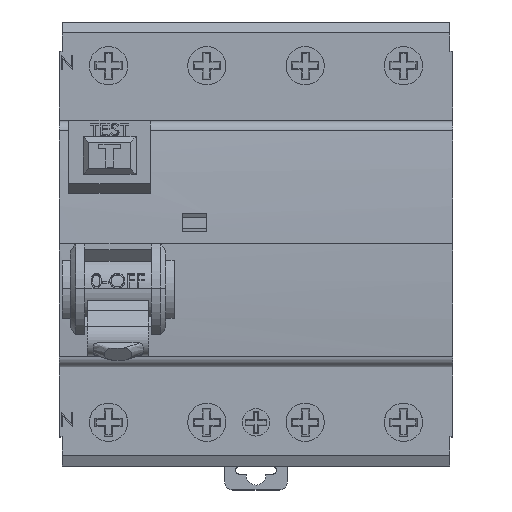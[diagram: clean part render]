
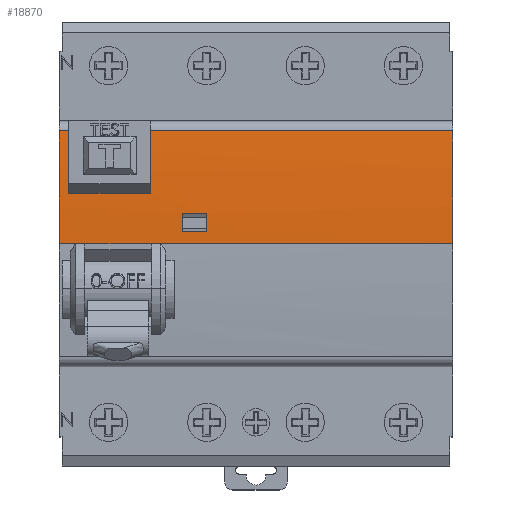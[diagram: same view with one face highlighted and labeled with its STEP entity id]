
A CAD part, top view. The second image highlights one B-rep face of the part: STEP entity #18870.
In plain terms, the highlighted cylindrical face has radius 211.537 mm (diameter 423.075 mm), a partial arc.
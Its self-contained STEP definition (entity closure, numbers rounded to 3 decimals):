
#9 = CIRCLE ( 'NONE', #1213, 211.538 ) ;
#131 = CIRCLE ( 'NONE', #594, 211.538 ) ;
#140 = CIRCLE ( 'NONE', #622, 211.538 ) ;
#167 = CIRCLE ( 'NONE', #575, 211.538 ) ;
#173 = CIRCLE ( 'NONE', #572, 211.538 ) ;
#220 = CIRCLE ( 'NONE', #3676, 211.538 ) ;
#571 = VECTOR ( 'NONE', #10637, 1000. ) ;
#572 = AXIS2_PLACEMENT_3D ( 'NONE', #10631, #10639, #10641 ) ;
#575 = AXIS2_PLACEMENT_3D ( 'NONE', #10613, #10627, #10629 ) ;
#576 = VECTOR ( 'NONE', #10619, 1000. ) ;
#578 = VECTOR ( 'NONE', #10611, 1000. ) ;
#581 = VECTOR ( 'NONE', #10591, 1000. ) ;
#583 = VECTOR ( 'NONE', #10585, 1000. ) ;
#592 = VECTOR ( 'NONE', #10531, 1000. ) ;
#593 = VECTOR ( 'NONE', #10519, 1000. ) ;
#594 = AXIS2_PLACEMENT_3D ( 'NONE', #10483, #10521, #10523 ) ;
#622 = AXIS2_PLACEMENT_3D ( 'NONE', #10525, #10533, #10535 ) ;
#807 = VECTOR ( 'NONE', #9980, 1000. ) ;
#1213 = AXIS2_PLACEMENT_3D ( 'NONE', #2633, #2634, #2635 ) ;
#1433 = VECTOR ( 'NONE', #1824, 1000. ) ;
#1490 = VECTOR ( 'NONE', #1732, 1000. ) ;
#1728 = LINE ( 'NONE', #1730, #1490 ) ;
#1730 = CARTESIAN_POINT ( 'NONE',  ( 80.257, 0., 33. ) ) ;
#1732 = DIRECTION ( 'NONE',  ( -1., 0., 0. ) ) ;
#1820 = LINE ( 'NONE', #1822, #1433 ) ;
#1822 = CARTESIAN_POINT ( 'NONE',  ( 80.257, 0., 33. ) ) ;
#1824 = DIRECTION ( 'NONE',  ( -1., 0., 0. ) ) ;
#2633 = CARTESIAN_POINT ( 'NONE',  ( -36., 0., -178.538 ) ) ;
#2634 = DIRECTION ( 'NONE',  ( -1., 0., 0. ) ) ;
#2635 = DIRECTION ( 'NONE',  ( 0., 0., 1. ) ) ;
#3632 = CYLINDRICAL_SURFACE ( 'NONE', #3633, 211.538 ) ;
#3633 = AXIS2_PLACEMENT_3D ( 'NONE', #14064, #14065, #14066 ) ;
#3637 = FACE_OUTER_BOUND ( 'NONE', #14470, .T. ) ;
#3639 = FACE_BOUND ( 'NONE', #14471, .T. ) ;
#3676 = AXIS2_PLACEMENT_3D ( 'NONE', #7746, #7748, #7750 ) ;
#6137 = CARTESIAN_POINT ( 'NONE',  ( 36., 0., 33. ) ) ;
#6138 = CARTESIAN_POINT ( 'NONE',  ( -17.5, 0., 33. ) ) ;
#6212 = CARTESIAN_POINT ( 'NONE',  ( 36., 20.696, 31.985 ) ) ;
#6259 = CARTESIAN_POINT ( 'NONE',  ( -36., 20.696, 31.985 ) ) ;
#6301 = CARTESIAN_POINT ( 'NONE',  ( -31.35, 0., 33. ) ) ;
#6306 = CARTESIAN_POINT ( 'NONE',  ( -19.15, 0., 33. ) ) ;
#6460 = CARTESIAN_POINT ( 'NONE',  ( -36., 0., 33. ) ) ;
#6461 = CARTESIAN_POINT ( 'NONE',  ( -33., 0., 33. ) ) ;
#6900 = CARTESIAN_POINT ( 'NONE',  ( -34.3, 20.696, 31.985 ) ) ;
#6902 = CARTESIAN_POINT ( 'NONE',  ( -9., 5.5, 32.928 ) ) ;
#6904 = CARTESIAN_POINT ( 'NONE',  ( -13.5, 5.5, 32.928 ) ) ;
#6930 = CARTESIAN_POINT ( 'NONE',  ( -9., 2.2, 32.989 ) ) ;
#6964 = CARTESIAN_POINT ( 'NONE',  ( -13.5, 2.2, 32.989 ) ) ;
#7118 = CARTESIAN_POINT ( 'NONE',  ( -34.3, 9.3, 32.795 ) ) ;
#7132 = CARTESIAN_POINT ( 'NONE',  ( -19.3, 9.3, 32.795 ) ) ;
#7146 = CARTESIAN_POINT ( 'NONE',  ( -19.3, 20.696, 31.985 ) ) ;
#7746 = CARTESIAN_POINT ( 'NONE',  ( 36., 0., -178.538 ) ) ;
#7748 = DIRECTION ( 'NONE',  ( 1., 0., 0. ) ) ;
#7750 = DIRECTION ( 'NONE',  ( 0., 0., 1. ) ) ;
#9978 = LINE ( 'NONE', #9979, #807 ) ;
#9979 = CARTESIAN_POINT ( 'NONE',  ( 80.257, 0., 33. ) ) ;
#9980 = DIRECTION ( 'NONE',  ( -1., 0., 0. ) ) ;
#10483 = CARTESIAN_POINT ( 'NONE',  ( -19.3, 0., -178.538 ) ) ;
#10515 = LINE ( 'NONE', #10517, #593 ) ;
#10517 = CARTESIAN_POINT ( 'NONE',  ( 80.257, 20.696, 31.985 ) ) ;
#10519 = DIRECTION ( 'NONE',  ( -1., 0., 0. ) ) ;
#10521 = DIRECTION ( 'NONE',  ( 1., 0., 0. ) ) ;
#10523 = DIRECTION ( 'NONE',  ( 0., 0., 1. ) ) ;
#10525 = CARTESIAN_POINT ( 'NONE',  ( -34.3, 0., -178.538 ) ) ;
#10527 = LINE ( 'NONE', #10529, #592 ) ;
#10529 = CARTESIAN_POINT ( 'NONE',  ( -19.3, 9.3, 32.795 ) ) ;
#10531 = DIRECTION ( 'NONE',  ( -1., 0., 0. ) ) ;
#10533 = DIRECTION ( 'NONE',  ( 1., 0., 0. ) ) ;
#10535 = DIRECTION ( 'NONE',  ( 0., 0., 1. ) ) ;
#10581 = LINE ( 'NONE', #10583, #583 ) ;
#10583 = CARTESIAN_POINT ( 'NONE',  ( 80.257, 20.696, 31.985 ) ) ;
#10585 = DIRECTION ( 'NONE',  ( -1., 0., 0. ) ) ;
#10587 = LINE ( 'NONE', #10589, #581 ) ;
#10589 = CARTESIAN_POINT ( 'NONE',  ( -15., 0., 33. ) ) ;
#10591 = DIRECTION ( 'NONE',  ( -1., 0., 0. ) ) ;
#10607 = LINE ( 'NONE', #10609, #578 ) ;
#10609 = CARTESIAN_POINT ( 'NONE',  ( -15., 0., 33. ) ) ;
#10611 = DIRECTION ( 'NONE',  ( -1., 0., 0. ) ) ;
#10613 = CARTESIAN_POINT ( 'NONE',  ( -9., 0., -178.538 ) ) ;
#10615 = LINE ( 'NONE', #10617, #576 ) ;
#10617 = CARTESIAN_POINT ( 'NONE',  ( -9., 5.5, 32.928 ) ) ;
#10619 = DIRECTION ( 'NONE',  ( -1., 0., 0. ) ) ;
#10627 = DIRECTION ( 'NONE',  ( -1., 0., 0. ) ) ;
#10629 = DIRECTION ( 'NONE',  ( 0., 0., 1. ) ) ;
#10631 = CARTESIAN_POINT ( 'NONE',  ( -13.5, 0., -178.538 ) ) ;
#10633 = LINE ( 'NONE', #10635, #571 ) ;
#10635 = CARTESIAN_POINT ( 'NONE',  ( -9., 2.2, 32.989 ) ) ;
#10637 = DIRECTION ( 'NONE',  ( -1., 0., 0. ) ) ;
#10639 = DIRECTION ( 'NONE',  ( -1., 0., 0. ) ) ;
#10641 = DIRECTION ( 'NONE',  ( 0., 0., 1. ) ) ;
#12124 = VERTEX_POINT ( 'NONE', #6137 ) ;
#12125 = VERTEX_POINT ( 'NONE', #6138 ) ;
#12199 = VERTEX_POINT ( 'NONE', #6212 ) ;
#12246 = VERTEX_POINT ( 'NONE', #6259 ) ;
#12288 = VERTEX_POINT ( 'NONE', #6301 ) ;
#12293 = VERTEX_POINT ( 'NONE', #6306 ) ;
#12447 = VERTEX_POINT ( 'NONE', #6460 ) ;
#12448 = VERTEX_POINT ( 'NONE', #6461 ) ;
#12605 = ORIENTED_EDGE ( 'NONE', *, *, #18189, .T. ) ;
#12606 = ORIENTED_EDGE ( 'NONE', *, *, #18187, .F. ) ;
#12607 = ORIENTED_EDGE ( 'NONE', *, *, #18188, .T. ) ;
#12608 = ORIENTED_EDGE ( 'NONE', *, *, #18185, .F. ) ;
#12609 = ORIENTED_EDGE ( 'NONE', *, *, #18184, .F. ) ;
#12610 = ORIENTED_EDGE ( 'NONE', *, *, #17823, .F. ) ;
#12611 = ORIENTED_EDGE ( 'NONE', *, *, #18064, .F. ) ;
#12612 = ORIENTED_EDGE ( 'NONE', *, *, #18181, .F. ) ;
#12613 = ORIENTED_EDGE ( 'NONE', *, *, #17894, .F. ) ;
#12614 = ORIENTED_EDGE ( 'NONE', *, *, #18180, .T. ) ;
#12615 = ORIENTED_EDGE ( 'NONE', *, *, #18172, .F. ) ;
#12616 = ORIENTED_EDGE ( 'NONE', *, *, #18170, .T. ) ;
#12617 = ORIENTED_EDGE ( 'NONE', *, *, #18171, .T. ) ;
#12618 = ORIENTED_EDGE ( 'NONE', *, *, #18169, .T. ) ;
#12619 = ORIENTED_EDGE ( 'NONE', *, *, #18455, .F. ) ;
#12620 = ORIENTED_EDGE ( 'NONE', *, *, #17807, .F. ) ;
#14064 = CARTESIAN_POINT ( 'NONE',  ( 80.257, 0., -178.538 ) ) ;
#14065 = DIRECTION ( 'NONE',  ( -1., 0., 0. ) ) ;
#14066 = DIRECTION ( 'NONE',  ( 0., 0., 1. ) ) ;
#14470 = EDGE_LOOP ( 'NONE', ( #12620, #12619, #12618, #12616, #12617, #12615, #12614, #12613, #12611, #12612, #12610, #12609 ) ) ;
#14471 = EDGE_LOOP ( 'NONE', ( #12608, #12606, #12607, #12605 ) ) ;
#14843 = VERTEX_POINT ( 'NONE', #6900 ) ;
#14844 = VERTEX_POINT ( 'NONE', #6902 ) ;
#14845 = VERTEX_POINT ( 'NONE', #6904 ) ;
#14858 = VERTEX_POINT ( 'NONE', #6930 ) ;
#14875 = VERTEX_POINT ( 'NONE', #6964 ) ;
#14952 = VERTEX_POINT ( 'NONE', #7118 ) ;
#14959 = VERTEX_POINT ( 'NONE', #7132 ) ;
#14966 = VERTEX_POINT ( 'NONE', #7146 ) ;
#17807 = EDGE_CURVE ( 'NONE', #12124, #12125, #1728, .T. ) ;
#17823 = EDGE_CURVE ( 'NONE', #12293, #12288, #1820, .T. ) ;
#17894 = EDGE_CURVE ( 'NONE', #12447, #12246, #9, .T. ) ;
#18064 = EDGE_CURVE ( 'NONE', #12448, #12447, #9978, .T. ) ;
#18169 = EDGE_CURVE ( 'NONE', #12199, #14966, #10515, .T. ) ;
#18170 = EDGE_CURVE ( 'NONE', #14966, #14959, #131, .T. ) ;
#18171 = EDGE_CURVE ( 'NONE', #14959, #14952, #10527, .T. ) ;
#18172 = EDGE_CURVE ( 'NONE', #14843, #14952, #140, .T. ) ;
#18180 = EDGE_CURVE ( 'NONE', #14843, #12246, #10581, .T. ) ;
#18181 = EDGE_CURVE ( 'NONE', #12288, #12448, #10587, .T. ) ;
#18184 = EDGE_CURVE ( 'NONE', #12125, #12293, #10607, .T. ) ;
#18185 = EDGE_CURVE ( 'NONE', #14844, #14845, #10615, .T. ) ;
#18187 = EDGE_CURVE ( 'NONE', #14858, #14844, #167, .T. ) ;
#18188 = EDGE_CURVE ( 'NONE', #14858, #14875, #10633, .T. ) ;
#18189 = EDGE_CURVE ( 'NONE', #14875, #14845, #173, .T. ) ;
#18455 = EDGE_CURVE ( 'NONE', #12199, #12124, #220, .T. ) ;
#18870 = ADVANCED_FACE ( 'NONE', ( #3637, #3639 ), #3632, .T. ) ;
